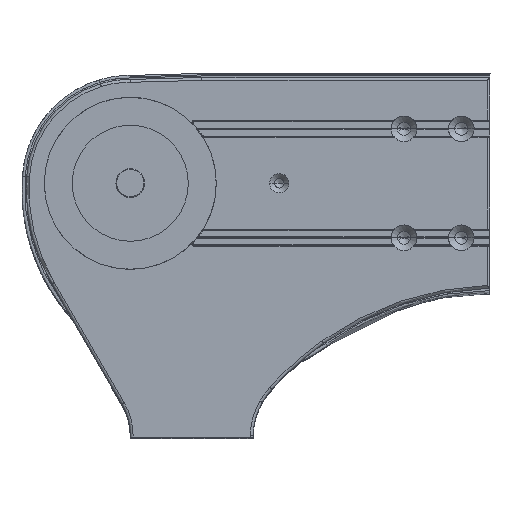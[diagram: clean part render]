
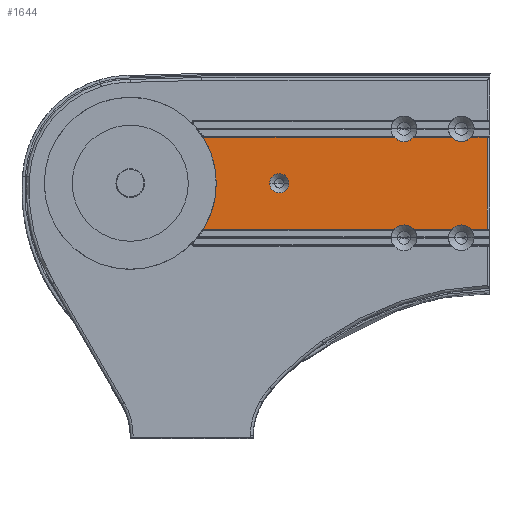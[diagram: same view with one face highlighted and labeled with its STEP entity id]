
A CAD part, top view. The second image highlights one B-rep face of the part: STEP entity #1644.
In plain terms, the highlighted planar face has unit normal (0, 0, 1).
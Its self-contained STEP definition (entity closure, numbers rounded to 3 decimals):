
#123 = CIRCLE ( 'NONE', #7245, 8.96 ) ;
#805 = DIRECTION ( 'NONE',  ( 1., 0., 0. ) ) ;
#1336 = VERTEX_POINT ( 'NONE', #2462 ) ;
#1565 = AXIS2_PLACEMENT_3D ( 'NONE', #9962, #16360, #17725 ) ;
#1608 = CARTESIAN_POINT ( 'NONE',  ( 237.694, -32., 174. ) ) ;
#1644 = ADVANCED_FACE ( 'NONE', ( #4200, #17435 ), #9730, .T. ) ;
#1791 = EDGE_LOOP ( 'NONE', ( #9159, #12439, #6669, #7409, #7306, #12176, #2336, #2744, #20356, #17788, #5562, #17100, #2113, #15019, #8494 ) ) ;
#1883 = CARTESIAN_POINT ( 'NONE',  ( 249.04, -32., 174. ) ) ;
#1895 = VECTOR ( 'NONE', #15386, 1000. ) ;
#2003 = CIRCLE ( 'NONE', #5247, 8.96 ) ;
#2113 = ORIENTED_EDGE ( 'NONE', *, *, #3398, .T. ) ;
#2145 = CARTESIAN_POINT ( 'NONE',  ( 51.247, 32., 174. ) ) ;
#2147 = LINE ( 'NONE', #2209, #8490 ) ;
#2202 = CARTESIAN_POINT ( 'NONE',  ( 231.04, -38., 174. ) ) ;
#2209 = CARTESIAN_POINT ( 'NONE',  ( 198.113, 32., 174. ) ) ;
#2336 = ORIENTED_EDGE ( 'NONE', *, *, #10231, .T. ) ;
#2423 = CARTESIAN_POINT ( 'NONE',  ( 51.247, -32., 174. ) ) ;
#2428 = VERTEX_POINT ( 'NONE', #2550 ) ;
#2462 = CARTESIAN_POINT ( 'NONE',  ( 224.385, 32., 174. ) ) ;
#2550 = CARTESIAN_POINT ( 'NONE',  ( 50.707, 32.074, 174. ) ) ;
#2651 = DIRECTION ( 'NONE',  ( 1., 0., 0. ) ) ;
#2744 = ORIENTED_EDGE ( 'NONE', *, *, #9304, .F. ) ;
#2885 = AXIS2_PLACEMENT_3D ( 'NONE', #12658, #3390, #3522 ) ;
#3335 = VERTEX_POINT ( 'NONE', #1883 ) ;
#3390 = DIRECTION ( 'NONE',  ( 0., 0., -1. ) ) ;
#3398 = EDGE_CURVE ( 'NONE', #1336, #3545, #2147, .T. ) ;
#3522 = DIRECTION ( 'NONE',  ( 1., 0., 0. ) ) ;
#3545 = VERTEX_POINT ( 'NONE', #11974 ) ;
#3674 = CARTESIAN_POINT ( 'NONE',  ( 184.385, -32., 174. ) ) ;
#3822 = EDGE_CURVE ( 'NONE', #9596, #15157, #18341, .T. ) ;
#4200 = FACE_BOUND ( 'NONE', #13134, .T. ) ;
#4308 = CARTESIAN_POINT ( 'NONE',  ( 223.967, -32., 174. ) ) ;
#4362 = EDGE_CURVE ( 'NONE', #9596, #3545, #7955, .T. ) ;
#4468 = CARTESIAN_POINT ( 'NONE',  ( 238.113, 32., 174. ) ) ;
#4952 = VERTEX_POINT ( 'NONE', #1608 ) ;
#5022 = VERTEX_POINT ( 'NONE', #3674 ) ;
#5050 = DIRECTION ( 'NONE',  ( 1., 0., 0. ) ) ;
#5204 = VECTOR ( 'NONE', #19899, 1000. ) ;
#5247 = AXIS2_PLACEMENT_3D ( 'NONE', #2202, #14881, #14953 ) ;
#5562 = ORIENTED_EDGE ( 'NONE', *, *, #16481, .T. ) ;
#5760 = DIRECTION ( 'NONE',  ( 0., 0., 1. ) ) ;
#5838 = CARTESIAN_POINT ( 'NONE',  ( 184.385, 32., 174. ) ) ;
#5841 = VERTEX_POINT ( 'NONE', #14897 ) ;
#5861 = CIRCLE ( 'NONE', #11856, 6.72 ) ;
#6101 = CARTESIAN_POINT ( 'NONE',  ( 249.04, 32., 174. ) ) ;
#6226 = CARTESIAN_POINT ( 'NONE',  ( 51.247, 32., 174. ) ) ;
#6283 = EDGE_CURVE ( 'NONE', #3335, #15277, #16136, .T. ) ;
#6669 = ORIENTED_EDGE ( 'NONE', *, *, #19979, .F. ) ;
#6671 = CARTESIAN_POINT ( 'NONE',  ( -44.001, -176.306, 174. ) ) ;
#6775 = CARTESIAN_POINT ( 'NONE',  ( 51.247, 34., 174. ) ) ;
#7245 = AXIS2_PLACEMENT_3D ( 'NONE', #10382, #19919, #2651 ) ;
#7306 = ORIENTED_EDGE ( 'NONE', *, *, #9725, .T. ) ;
#7409 = ORIENTED_EDGE ( 'NONE', *, *, #14974, .T. ) ;
#7422 = CARTESIAN_POINT ( 'NONE',  ( 249.04, 32.5, 174. ) ) ;
#7716 = EDGE_CURVE ( 'NONE', #5841, #15944, #15581, .T. ) ;
#7834 = EDGE_CURVE ( 'NONE', #10215, #2428, #16564, .T. ) ;
#7955 = CIRCLE ( 'NONE', #9881, 8.96 ) ;
#8261 = VECTOR ( 'NONE', #11119, 1000. ) ;
#8382 = VERTEX_POINT ( 'NONE', #2423 ) ;
#8490 = VECTOR ( 'NONE', #14527, 1000. ) ;
#8494 = ORIENTED_EDGE ( 'NONE', *, *, #3822, .T. ) ;
#8651 = DIRECTION ( 'NONE',  ( 0., 0., 1. ) ) ;
#8833 = LINE ( 'NONE', #4468, #18196 ) ;
#9014 = VERTEX_POINT ( 'NONE', #13776 ) ;
#9034 = AXIS2_PLACEMENT_3D ( 'NONE', #17521, #9704, #9561 ) ;
#9115 = CARTESIAN_POINT ( 'NONE',  ( 50.707, -32.074, 174. ) ) ;
#9159 = ORIENTED_EDGE ( 'NONE', *, *, #16182, .T. ) ;
#9161 = CIRCLE ( 'NONE', #18842, 60. ) ;
#9304 = EDGE_CURVE ( 'NONE', #4952, #9014, #2003, .T. ) ;
#9539 = DIRECTION ( 'NONE',  ( 0., 0., 1. ) ) ;
#9561 = DIRECTION ( 'NONE',  ( 1., 0., 0. ) ) ;
#9596 = VERTEX_POINT ( 'NONE', #5838 ) ;
#9704 = DIRECTION ( 'NONE',  ( 0., 0., 1. ) ) ;
#9725 = EDGE_CURVE ( 'NONE', #8382, #5022, #13065, .T. ) ;
#9730 = PLANE ( 'NONE',  #19027 ) ;
#9800 = CARTESIAN_POINT ( 'NONE',  ( 237.694, 32., 174. ) ) ;
#9836 = CIRCLE ( 'NONE', #9960, 2. ) ;
#9881 = AXIS2_PLACEMENT_3D ( 'NONE', #15130, #8651, #805 ) ;
#9960 = AXIS2_PLACEMENT_3D ( 'NONE', #6775, #17705, #17775 ) ;
#9962 = CARTESIAN_POINT ( 'NONE',  ( 0., 0., 174. ) ) ;
#10215 = VERTEX_POINT ( 'NONE', #14987 ) ;
#10231 = EDGE_CURVE ( 'NONE', #14372, #9014, #18216, .T. ) ;
#10382 = CARTESIAN_POINT ( 'NONE',  ( 191.04, -38., 174. ) ) ;
#10576 = CARTESIAN_POINT ( 'NONE',  ( 0., 0., 174. ) ) ;
#11119 = DIRECTION ( 'NONE',  ( 1., 0., 0. ) ) ;
#11155 = EDGE_CURVE ( 'NONE', #1336, #18310, #20205, .T. ) ;
#11490 = LINE ( 'NONE', #14322, #8261 ) ;
#11856 = AXIS2_PLACEMENT_3D ( 'NONE', #12465, #20341, #13814 ) ;
#11974 = CARTESIAN_POINT ( 'NONE',  ( 197.694, 32., 174. ) ) ;
#12176 = ORIENTED_EDGE ( 'NONE', *, *, #19328, .F. ) ;
#12215 = DIRECTION ( 'NONE',  ( 1., 0., 0. ) ) ;
#12439 = ORIENTED_EDGE ( 'NONE', *, *, #7834, .F. ) ;
#12465 = CARTESIAN_POINT ( 'NONE',  ( 104., 0., 174. ) ) ;
#12658 = CARTESIAN_POINT ( 'NONE',  ( 51.247, -34., 174. ) ) ;
#12965 = DIRECTION ( 'NONE',  ( 0., 0., 1. ) ) ;
#13039 = VECTOR ( 'NONE', #12215, 1000. ) ;
#13065 = LINE ( 'NONE', #15089, #5204 ) ;
#13134 = EDGE_LOOP ( 'NONE', ( #13990, #13836 ) ) ;
#13690 = VECTOR ( 'NONE', #16915, 1000. ) ;
#13776 = CARTESIAN_POINT ( 'NONE',  ( 224.385, -32., 174. ) ) ;
#13814 = DIRECTION ( 'NONE',  ( 1., 0., 0. ) ) ;
#13836 = ORIENTED_EDGE ( 'NONE', *, *, #7716, .F. ) ;
#13990 = ORIENTED_EDGE ( 'NONE', *, *, #17631, .F. ) ;
#14322 = CARTESIAN_POINT ( 'NONE',  ( 249.04, -32., 174. ) ) ;
#14372 = VERTEX_POINT ( 'NONE', #18378 ) ;
#14527 = DIRECTION ( 'NONE',  ( -1., 0., 0. ) ) ;
#14881 = DIRECTION ( 'NONE',  ( 0., 0., 1. ) ) ;
#14897 = CARTESIAN_POINT ( 'NONE',  ( 97.28, 0., 174. ) ) ;
#14953 = DIRECTION ( 'NONE',  ( 1., 0., 0. ) ) ;
#14974 = EDGE_CURVE ( 'NONE', #15319, #8382, #15039, .T. ) ;
#14987 = CARTESIAN_POINT ( 'NONE',  ( 60., 0., 174. ) ) ;
#15019 = ORIENTED_EDGE ( 'NONE', *, *, #4362, .F. ) ;
#15039 = CIRCLE ( 'NONE', #2885, 2. ) ;
#15089 = CARTESIAN_POINT ( 'NONE',  ( 183.967, -32., 174. ) ) ;
#15130 = CARTESIAN_POINT ( 'NONE',  ( 191.04, 38., 174. ) ) ;
#15157 = VERTEX_POINT ( 'NONE', #2145 ) ;
#15277 = VERTEX_POINT ( 'NONE', #6101 ) ;
#15319 = VERTEX_POINT ( 'NONE', #9115 ) ;
#15386 = DIRECTION ( 'NONE',  ( -1., 0., 0. ) ) ;
#15485 = AXIS2_PLACEMENT_3D ( 'NONE', #18928, #9539, #18987 ) ;
#15581 = CIRCLE ( 'NONE', #9034, 6.72 ) ;
#15944 = VERTEX_POINT ( 'NONE', #19898 ) ;
#16136 = LINE ( 'NONE', #7422, #13690 ) ;
#16182 = EDGE_CURVE ( 'NONE', #15157, #2428, #9836, .T. ) ;
#16360 = DIRECTION ( 'NONE',  ( 0., 0., 1. ) ) ;
#16481 = EDGE_CURVE ( 'NONE', #15277, #18310, #8833, .T. ) ;
#16564 = CIRCLE ( 'NONE', #1565, 60. ) ;
#16915 = DIRECTION ( 'NONE',  ( 0., 1., 0. ) ) ;
#17100 = ORIENTED_EDGE ( 'NONE', *, *, #11155, .F. ) ;
#17435 = FACE_OUTER_BOUND ( 'NONE', #1791, .T. ) ;
#17521 = CARTESIAN_POINT ( 'NONE',  ( 104., 0., 174. ) ) ;
#17631 = EDGE_CURVE ( 'NONE', #15944, #5841, #5861, .T. ) ;
#17705 = DIRECTION ( 'NONE',  ( 0., 0., -1. ) ) ;
#17725 = DIRECTION ( 'NONE',  ( 1., 0., 0. ) ) ;
#17773 = EDGE_CURVE ( 'NONE', #4952, #3335, #11490, .T. ) ;
#17775 = DIRECTION ( 'NONE',  ( 1., 0., 0. ) ) ;
#17788 = ORIENTED_EDGE ( 'NONE', *, *, #6283, .T. ) ;
#18196 = VECTOR ( 'NONE', #20123, 1000. ) ;
#18216 = LINE ( 'NONE', #4308, #13039 ) ;
#18310 = VERTEX_POINT ( 'NONE', #9800 ) ;
#18341 = LINE ( 'NONE', #6226, #1895 ) ;
#18378 = CARTESIAN_POINT ( 'NONE',  ( 197.694, -32., 174. ) ) ;
#18461 = DIRECTION ( 'NONE',  ( 1., 0., 0. ) ) ;
#18842 = AXIS2_PLACEMENT_3D ( 'NONE', #10576, #5760, #18461 ) ;
#18928 = CARTESIAN_POINT ( 'NONE',  ( 231.04, 38., 174. ) ) ;
#18987 = DIRECTION ( 'NONE',  ( 1., 0., 0. ) ) ;
#19027 = AXIS2_PLACEMENT_3D ( 'NONE', #6671, #12965, #5050 ) ;
#19328 = EDGE_CURVE ( 'NONE', #14372, #5022, #123, .T. ) ;
#19898 = CARTESIAN_POINT ( 'NONE',  ( 110.72, 0., 174. ) ) ;
#19899 = DIRECTION ( 'NONE',  ( 1., 0., 0. ) ) ;
#19919 = DIRECTION ( 'NONE',  ( 0., 0., 1. ) ) ;
#19979 = EDGE_CURVE ( 'NONE', #15319, #10215, #9161, .T. ) ;
#20123 = DIRECTION ( 'NONE',  ( -1., 0., 0. ) ) ;
#20205 = CIRCLE ( 'NONE', #15485, 8.96 ) ;
#20341 = DIRECTION ( 'NONE',  ( 0., 0., 1. ) ) ;
#20356 = ORIENTED_EDGE ( 'NONE', *, *, #17773, .T. ) ;
